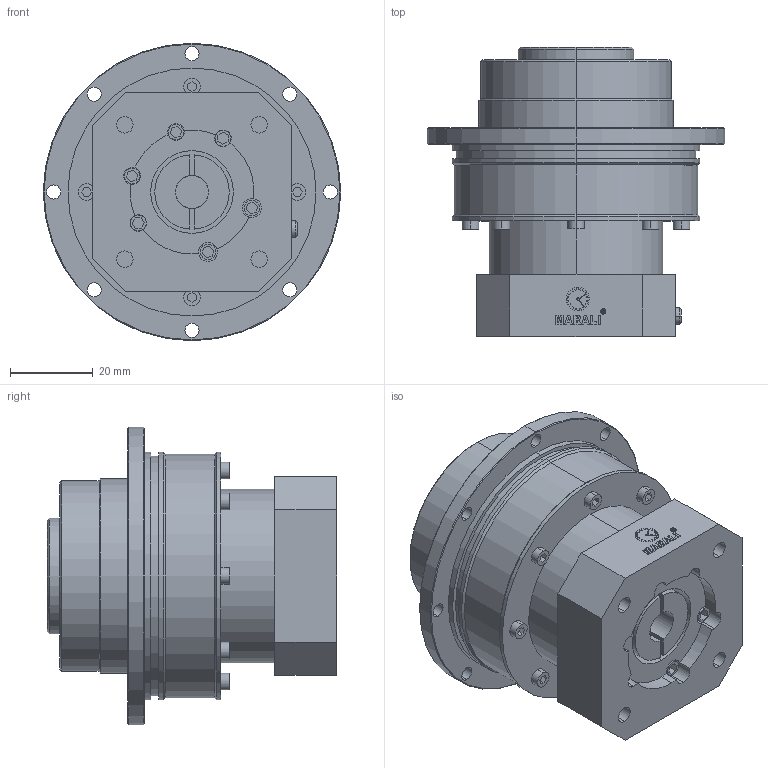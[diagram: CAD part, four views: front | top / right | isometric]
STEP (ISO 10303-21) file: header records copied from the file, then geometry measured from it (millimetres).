
FILE_DESCRIPTION (( 'STEP AP214' ), '1' );
FILE_NAME ('MAD-047-L1.step', '2020-06-26T06:25:28', ( '' ), ( '' ), 'SwSTEP 2.0', 'SolidWorks 2016', '' );
FILE_SCHEMA (( 'AUTOMOTIVE_DESIGN' ));
Length unit declared in the file: millimetre
Products named in the file (1): MAD-047-L1
Bounding box: 72 x 70 x 72 mm (x, y, z)
Volume: 141311.3 mm3; surface area: 26623.7 mm2
Topology: 11 solids, 11 shells, 495 faces, 1254 edges, 821 vertices
Faces by surface type: plane 295, cylinder 111, bspline 63, cone 26
Entity records: 20707 total; most frequent: CARTESIAN_POINT 3380, ORIENTED_EDGE 2488, DIRECTION 2234, EDGE_CURVE 1244, LINE 868, VECTOR 868, VERTEX_POINT 821, AXIS2_PLACEMENT_3D 683
